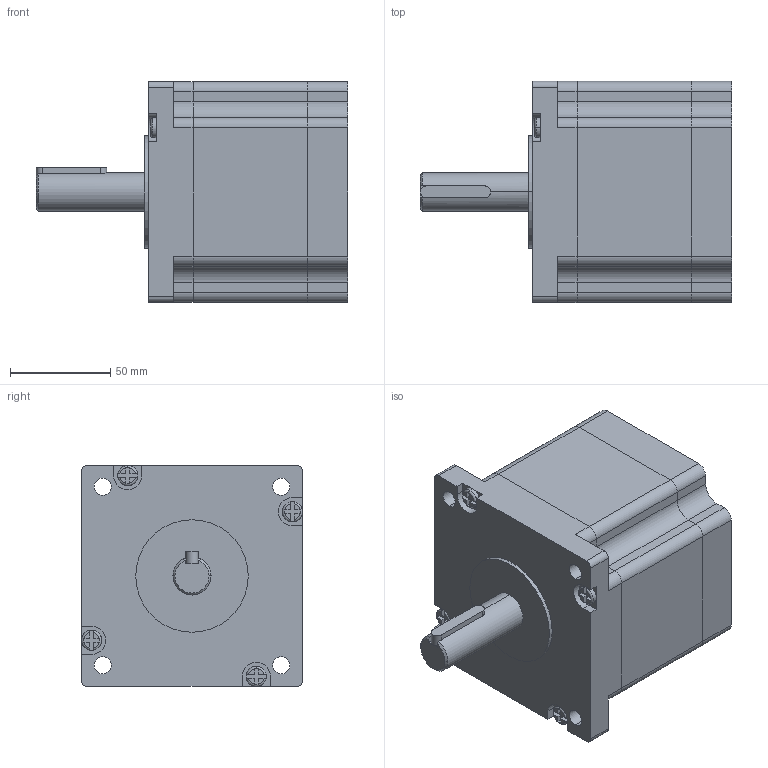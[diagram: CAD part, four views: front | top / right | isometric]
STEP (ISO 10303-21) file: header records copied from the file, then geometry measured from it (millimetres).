
FILE_DESCRIPTION (( 'STEP AP203' ), '1' );
FILE_NAME ('110J18115-460.STEP', '2018-06-08T07:13:08', ( 'User' ), ( 'china' ), 'SwSTEP 2.0', 'SolidWorks 2015', '' );
FILE_SCHEMA (( 'CONFIG_CONTROL_DESIGN' ));
Length unit declared in the file: millimetre
Products named in the file (5): 菁釱_1; 键_1; 110儂旯58mmL_1; 110J18115奻裔_1; 110J18115-460
Assembly tree (4 placements, depth 2):
  110J18115-460
    菁釱_1
    键_1
    110儂旯58mmL_1
    110J18115奻裔_1
Bounding box: 155 x 110 x 110 mm (x, y, z)
Volume: 1089669.6 mm3; surface area: 119279.2 mm2
Topology: 4 solids, 5 shells, 219 faces, 592 edges, 386 vertices
Faces by surface type: plane 122, cylinder 84, torus 10, cone 3
Entity records: 7531 total; most frequent: CARTESIAN_POINT 1360, DIRECTION 1224, ORIENTED_EDGE 1172, EDGE_CURVE 586, AXIS2_PLACEMENT_3D 432, VERTEX_POINT 384, VECTOR 360, LINE 360
